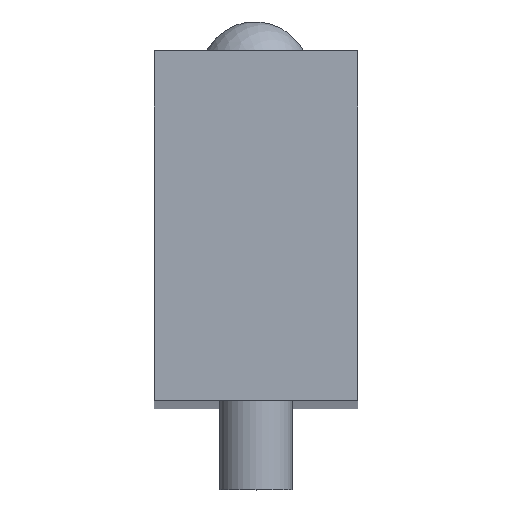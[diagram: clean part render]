
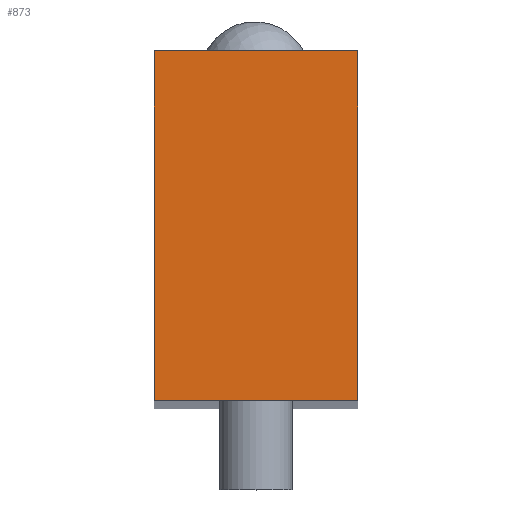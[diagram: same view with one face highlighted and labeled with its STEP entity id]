
A CAD part, top view. The second image highlights one B-rep face of the part: STEP entity #873.
In plain terms, the highlighted planar face has unit normal (0, 0, 1).
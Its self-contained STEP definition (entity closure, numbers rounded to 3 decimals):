
#50=LINE('',#1501,#80);
#54=LINE('',#1514,#84);
#61=LINE('',#1535,#91);
#62=LINE('',#1537,#92);
#80=VECTOR('',#1263,10.);
#84=VECTOR('',#1273,10.);
#91=VECTOR('',#1298,10.);
#92=VECTOR('',#1301,10.);
#198=FACE_OUTER_BOUND('',#286,.T.);
#286=EDGE_LOOP('',(#731,#732,#733,#734));
#422=VERTEX_POINT('',#1498);
#423=VERTEX_POINT('',#1500);
#428=VERTEX_POINT('',#1511);
#429=VERTEX_POINT('',#1513);
#516=EDGE_CURVE('',#423,#422,#50,.T.);
#522=EDGE_CURVE('',#429,#428,#54,.T.);
#533=EDGE_CURVE('',#422,#429,#61,.T.);
#534=EDGE_CURVE('',#428,#423,#62,.T.);
#731=ORIENTED_EDGE('',*,*,#522,.T.);
#732=ORIENTED_EDGE('',*,*,#534,.T.);
#733=ORIENTED_EDGE('',*,*,#516,.T.);
#734=ORIENTED_EDGE('',*,*,#533,.T.);
#758=PLANE('',#1019);
#873=ADVANCED_FACE('',(#198),#758,.T.);
#1019=AXIS2_PLACEMENT_3D('',#1538,#1302,#1303);
#1263=DIRECTION('',(-1.,0.,0.));
#1273=DIRECTION('',(1.,0.,0.));
#1298=DIRECTION('',(0.,-1.,0.));
#1301=DIRECTION('',(0.,1.,0.));
#1302=DIRECTION('center_axis',(0.,0.,1.));
#1303=DIRECTION('ref_axis',(1.,0.,0.));
#1498=CARTESIAN_POINT('',(-13.9,47.8,55.));
#1500=CARTESIAN_POINT('',(13.9,47.8,55.));
#1501=CARTESIAN_POINT('',(13.9,47.8,55.));
#1511=CARTESIAN_POINT('',(13.9,0.,55.));
#1513=CARTESIAN_POINT('',(-13.9,0.,55.));
#1514=CARTESIAN_POINT('',(-13.9,0.,55.));
#1535=CARTESIAN_POINT('',(-13.9,47.8,55.));
#1537=CARTESIAN_POINT('',(13.9,0.,55.));
#1538=CARTESIAN_POINT('Origin',(0.,23.9,55.));
